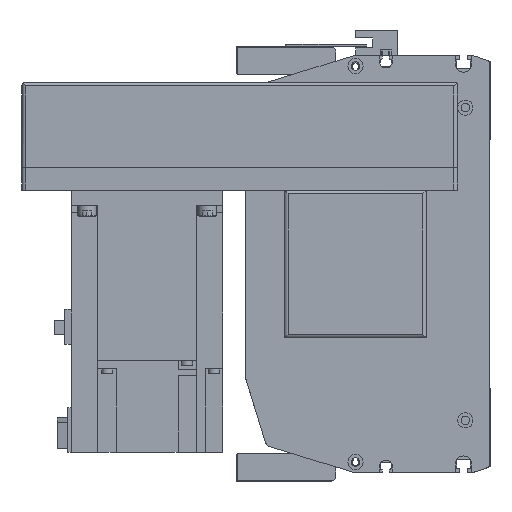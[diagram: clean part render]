
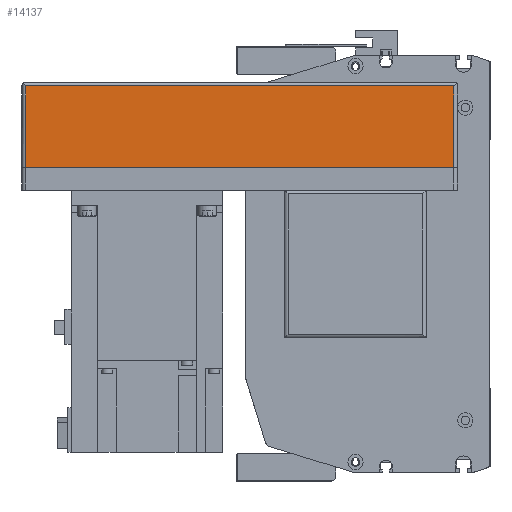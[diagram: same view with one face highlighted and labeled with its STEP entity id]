
A CAD part, left-side view. The second image highlights one B-rep face of the part: STEP entity #14137.
In plain terms, the highlighted planar face has unit normal (-1, 0, 0) as drawn and (0, 1, 0) by its records, which use the part's own axes.
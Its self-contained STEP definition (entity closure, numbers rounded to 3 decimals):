
#2412=ORIENTED_EDGE('',*,*,#5770,.F.);
#2413=ORIENTED_EDGE('',*,*,#5710,.T.);
#2414=ORIENTED_EDGE('',*,*,#5771,.F.);
#2415=ORIENTED_EDGE('',*,*,#5705,.F.);
#5705=EDGE_CURVE('',#7530,#7531,#8992,.T.);
#5710=EDGE_CURVE('',#7536,#7535,#8994,.T.);
#5770=EDGE_CURVE('',#7536,#7530,#9037,.T.);
#5771=EDGE_CURVE('',#7531,#7535,#9038,.T.);
#7530=VERTEX_POINT('',#21978);
#7531=VERTEX_POINT('',#21980);
#7535=VERTEX_POINT('',#21989);
#7536=VERTEX_POINT('',#21991);
#8992=LINE('',#21979,#10333);
#8994=LINE('',#21990,#10335);
#9037=LINE('',#22113,#10378);
#9038=LINE('',#22114,#10379);
#10333=VECTOR('',#17571,1000.);
#10335=VECTOR('',#17581,1000.);
#10378=VECTOR('',#17702,1000.);
#10379=VECTOR('',#17703,1000.);
#11528=EDGE_LOOP('',(#2412,#2413,#2414,#2415));
#12605=FACE_BOUND('',#11528,.T.);
#13520=PLANE('',#15178);
#14137=ADVANCED_FACE('',(#12605),#13520,.T.);
#15178=AXIS2_PLACEMENT_3D('',#22112,#17700,#17701);
#17571=DIRECTION('',(0.,0.,1.));
#17581=DIRECTION('',(0.,0.,1.));
#17700=DIRECTION('',(0.,1.,0.));
#17701=DIRECTION('',(0.,0.,1.));
#17702=DIRECTION('',(1.,0.,0.));
#17703=DIRECTION('',(-1.,0.,0.));
#21978=CARTESIAN_POINT('',(-2.,54.,-55.));
#21979=CARTESIAN_POINT('',(-2.,54.,-57.));
#21980=CARTESIAN_POINT('',(-2.,54.,-12.));
#21989=CARTESIAN_POINT('',(-228.,54.,-12.));
#21990=CARTESIAN_POINT('',(-228.,54.,-57.));
#21991=CARTESIAN_POINT('',(-228.,54.,-55.));
#22112=CARTESIAN_POINT('',(-2.,54.,-57.));
#22113=CARTESIAN_POINT('',(-230.,54.,-55.));
#22114=CARTESIAN_POINT('',(-2.,54.,-12.));
